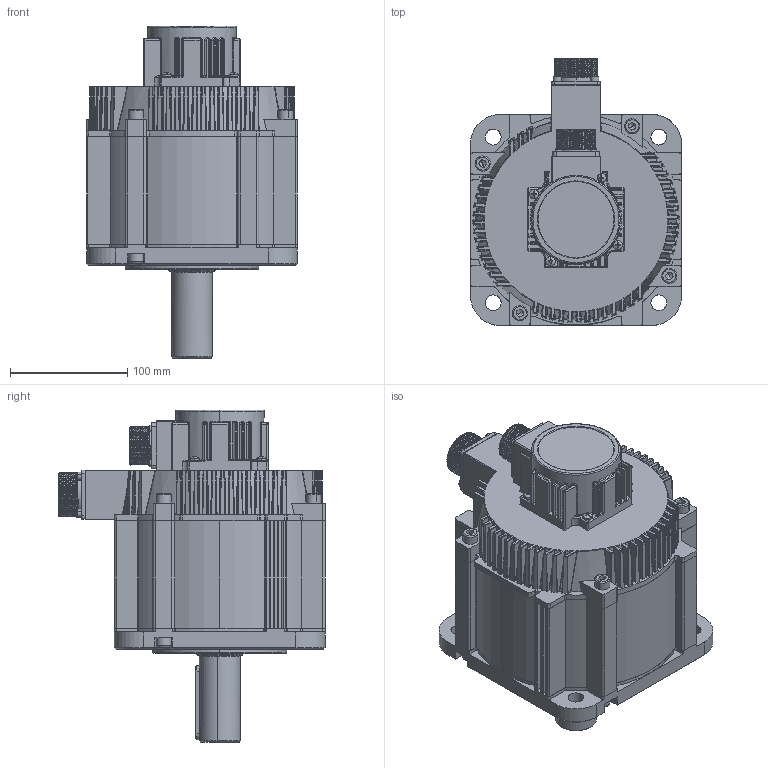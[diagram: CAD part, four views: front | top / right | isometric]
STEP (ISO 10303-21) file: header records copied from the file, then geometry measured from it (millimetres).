
FILE_DESCRIPTION (( 'STEP AP203' ), '1' );
FILE_NAME ('WB180ST-M18615 YD.STEP', '2022-09-06T10:25:55', ( '' ), ( '' ), 'SwSTEP 2.0', 'SolidWorks 2018', '' );
FILE_SCHEMA (( 'CONFIG_CONTROL_DESIGN' ));
Length unit declared in the file: millimetre
Products named in the file (1): WB180ST-M18615 YD
Bounding box: 180 x 227.5 x 283.4 mm (x, y, z)
Volume: 1542982.6 mm3; surface area: 485499.6 mm2
Topology: 30 solids, 30 shells, 2512 faces, 6363 edges, 3709 vertices
Faces by surface type: cylinder 811, plane 721, bspline 392, torus 217, cone 186, sphere 185
Entity records: 98018 total; most frequent: CARTESIAN_POINT 43921, ORIENTED_EDGE 12090, DIRECTION 10253, EDGE_CURVE 6045, AXIS2_PLACEMENT_3D 4273, VERTEX_POINT 3694, EDGE_LOOP 2687, ADVANCED_FACE 2512
